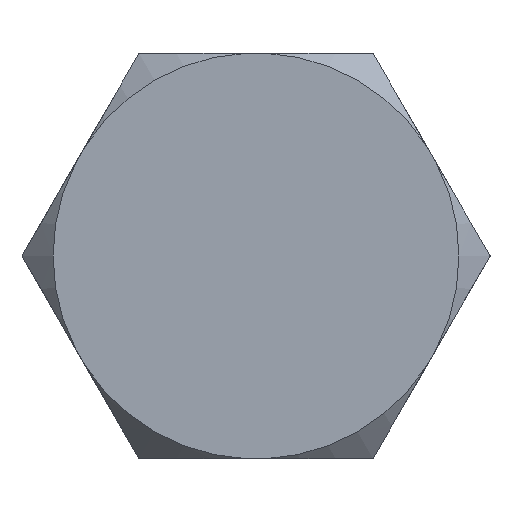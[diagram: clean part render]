
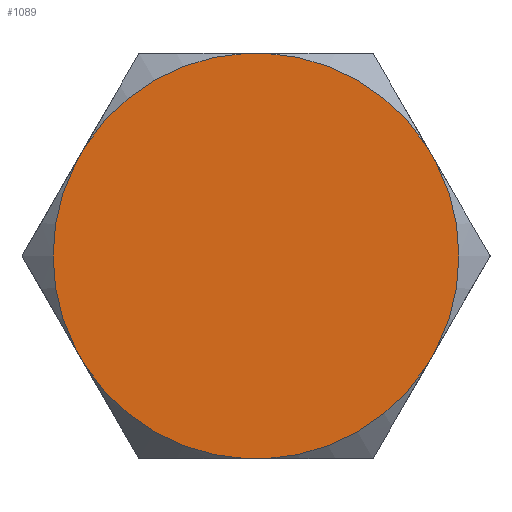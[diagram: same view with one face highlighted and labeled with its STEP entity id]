
A CAD part, front view. The second image highlights one B-rep face of the part: STEP entity #1089.
In plain terms, the highlighted planar face has unit normal (0, -1, 0).
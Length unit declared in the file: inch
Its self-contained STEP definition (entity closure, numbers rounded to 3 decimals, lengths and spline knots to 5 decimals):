
#67=PLANE('',#1240);
#126=LINE('',#1868,#171);
#129=LINE('',#1890,#174);
#132=LINE('',#1912,#177);
#135=LINE('',#1934,#180);
#138=LINE('',#1956,#183);
#141=LINE('',#1978,#186);
#171=VECTOR('',#1444,0.3937);
#174=VECTOR('',#1449,0.3937);
#177=VECTOR('',#1454,0.3937);
#180=VECTOR('',#1459,0.3937);
#183=VECTOR('',#1464,0.3937);
#186=VECTOR('',#1469,0.3937);
#235=FACE_OUTER_BOUND('',#301,.T.);
#301=EDGE_LOOP('',(#915,#916,#917,#918,#919,#920,#921,#922,#923,#924,#925,
#926));
#380=CIRCLE('',#1241,0.438);
#381=CIRCLE('',#1242,0.438);
#382=CIRCLE('',#1243,0.438);
#383=CIRCLE('',#1244,0.438);
#384=CIRCLE('',#1245,0.438);
#385=CIRCLE('',#1246,0.438);
#474=VERTEX_POINT('',#1863);
#475=VERTEX_POINT('',#1867);
#480=VERTEX_POINT('',#1885);
#481=VERTEX_POINT('',#1889);
#486=VERTEX_POINT('',#1907);
#487=VERTEX_POINT('',#1911);
#492=VERTEX_POINT('',#1929);
#493=VERTEX_POINT('',#1933);
#498=VERTEX_POINT('',#1951);
#499=VERTEX_POINT('',#1955);
#504=VERTEX_POINT('',#1973);
#505=VERTEX_POINT('',#1977);
#605=EDGE_CURVE('',#475,#474,#126,.T.);
#612=EDGE_CURVE('',#481,#480,#129,.T.);
#619=EDGE_CURVE('',#487,#486,#132,.T.);
#626=EDGE_CURVE('',#493,#492,#135,.T.);
#633=EDGE_CURVE('',#499,#498,#138,.T.);
#640=EDGE_CURVE('',#505,#504,#141,.T.);
#655=EDGE_CURVE('',#505,#474,#380,.T.);
#656=EDGE_CURVE('',#499,#504,#381,.T.);
#657=EDGE_CURVE('',#493,#498,#382,.T.);
#658=EDGE_CURVE('',#487,#492,#383,.T.);
#659=EDGE_CURVE('',#481,#486,#384,.T.);
#660=EDGE_CURVE('',#475,#480,#385,.T.);
#915=ORIENTED_EDGE('',*,*,#605,.T.);
#916=ORIENTED_EDGE('',*,*,#655,.F.);
#917=ORIENTED_EDGE('',*,*,#640,.T.);
#918=ORIENTED_EDGE('',*,*,#656,.F.);
#919=ORIENTED_EDGE('',*,*,#633,.T.);
#920=ORIENTED_EDGE('',*,*,#657,.F.);
#921=ORIENTED_EDGE('',*,*,#626,.T.);
#922=ORIENTED_EDGE('',*,*,#658,.F.);
#923=ORIENTED_EDGE('',*,*,#619,.T.);
#924=ORIENTED_EDGE('',*,*,#659,.F.);
#925=ORIENTED_EDGE('',*,*,#612,.T.);
#926=ORIENTED_EDGE('',*,*,#660,.F.);
#1089=ADVANCED_FACE('',(#235),#67,.T.);
#1240=AXIS2_PLACEMENT_3D('',#2008,#1519,#1520);
#1241=AXIS2_PLACEMENT_3D('',#2009,#1521,#1522);
#1242=AXIS2_PLACEMENT_3D('',#2010,#1523,#1524);
#1243=AXIS2_PLACEMENT_3D('',#2011,#1525,#1526);
#1244=AXIS2_PLACEMENT_3D('',#2012,#1527,#1528);
#1245=AXIS2_PLACEMENT_3D('',#2013,#1529,#1530);
#1246=AXIS2_PLACEMENT_3D('',#2014,#1531,#1532);
#1444=DIRECTION('',(0.5,0.,-0.866));
#1449=DIRECTION('',(-0.5,0.,-0.866));
#1454=DIRECTION('',(-1.,0.,0.));
#1459=DIRECTION('',(-0.5,0.,0.866));
#1464=DIRECTION('',(0.5,0.,0.866));
#1469=DIRECTION('',(1.,0.,0.));
#1519=DIRECTION('center_axis',(0.,-1.,0.));
#1520=DIRECTION('ref_axis',(0.,0.,-1.));
#1521=DIRECTION('center_axis',(0.,1.,0.));
#1522=DIRECTION('ref_axis',(0.,0.,1.));
#1523=DIRECTION('center_axis',(0.,1.,0.));
#1524=DIRECTION('ref_axis',(0.,0.,1.));
#1525=DIRECTION('center_axis',(0.,1.,0.));
#1526=DIRECTION('ref_axis',(0.,0.,1.));
#1527=DIRECTION('center_axis',(0.,1.,0.));
#1528=DIRECTION('ref_axis',(0.,0.,1.));
#1529=DIRECTION('center_axis',(0.,1.,0.));
#1530=DIRECTION('ref_axis',(0.,0.,1.));
#1531=DIRECTION('center_axis',(0.,1.,0.));
#1532=DIRECTION('ref_axis',(0.,0.,1.));
#1863=CARTESIAN_POINT('',(-0.36842,0.,-0.23687));
#1867=CARTESIAN_POINT('',(-0.38935,0.,-0.20063));
#1868=CARTESIAN_POINT('',(-0.44203,0.,-0.10938));
#1885=CARTESIAN_POINT('',(-0.38935,0.,0.20063));
#1889=CARTESIAN_POINT('',(-0.36842,0.,0.23687));
#1890=CARTESIAN_POINT('',(-0.31574,0.,0.32813));
#1907=CARTESIAN_POINT('',(-0.02092,0.,0.4375));
#1911=CARTESIAN_POINT('',(0.02092,0.,0.4375));
#1912=CARTESIAN_POINT('',(0.1263,0.,0.4375));
#1929=CARTESIAN_POINT('',(0.36842,0.,0.23687));
#1933=CARTESIAN_POINT('',(0.38935,0.,0.20063));
#1934=CARTESIAN_POINT('',(0.44203,0.,0.10938));
#1951=CARTESIAN_POINT('',(0.38935,0.,-0.20063));
#1955=CARTESIAN_POINT('',(0.36842,0.,-0.23687));
#1956=CARTESIAN_POINT('',(0.31574,0.,-0.32813));
#1973=CARTESIAN_POINT('',(0.02092,0.,-0.4375));
#1977=CARTESIAN_POINT('',(-0.02092,0.,-0.4375));
#1978=CARTESIAN_POINT('',(-0.1263,0.,-0.4375));
#2008=CARTESIAN_POINT('Origin',(0.,0.,0.));
#2009=CARTESIAN_POINT('Origin',(0.,0.,0.));
#2010=CARTESIAN_POINT('Origin',(0.,0.,0.));
#2011=CARTESIAN_POINT('Origin',(0.,0.,0.));
#2012=CARTESIAN_POINT('Origin',(0.,0.,0.));
#2013=CARTESIAN_POINT('Origin',(0.,0.,0.));
#2014=CARTESIAN_POINT('Origin',(0.,0.,0.));
